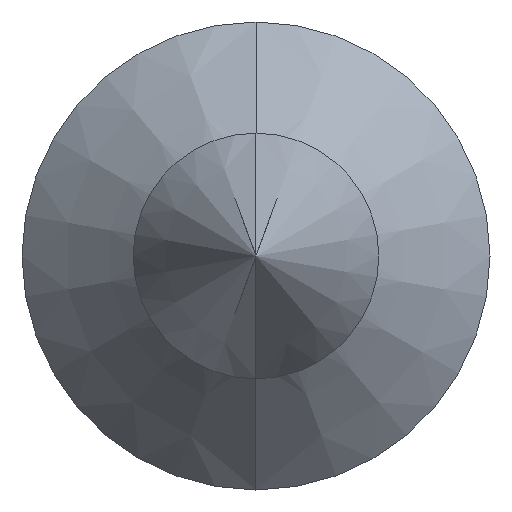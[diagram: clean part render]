
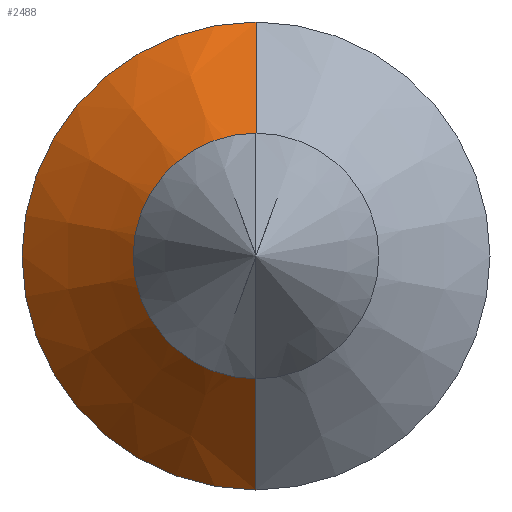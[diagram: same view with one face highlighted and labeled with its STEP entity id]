
A CAD part, left-side view. The second image highlights one B-rep face of the part: STEP entity #2488.
In plain terms, the highlighted conical face has half-angle 45 degrees and reference radius 2 mm.
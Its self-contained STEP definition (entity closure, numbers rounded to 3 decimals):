
#42 = ORIENTED_EDGE ( 'NONE', *, *, #1872, .F. ) ;
#117 = LINE ( 'NONE', #400, #1420 ) ;
#169 = ORIENTED_EDGE ( 'NONE', *, *, #2521, .T. ) ;
#285 = CONICAL_SURFACE ( 'NONE', #3105, 2., 0.785 ) ;
#400 = CARTESIAN_POINT ( 'NONE',  ( 0.966, 0., -2. ) ) ;
#474 = CARTESIAN_POINT ( 'NONE',  ( 0.966, 0., 0. ) ) ;
#490 = CARTESIAN_POINT ( 'NONE',  ( -0.134, 0., 0. ) ) ;
#540 = EDGE_CURVE ( 'NONE', #1320, #2739, #684, .T. ) ;
#608 = AXIS2_PLACEMENT_3D ( 'NONE', #490, #668, #2561 ) ;
#668 = DIRECTION ( 'NONE',  ( -1., 0., 0. ) ) ;
#684 = LINE ( 'NONE', #2570, #1197 ) ;
#846 = EDGE_LOOP ( 'NONE', ( #1100, #2703, #169, #42 ) ) ;
#1100 = ORIENTED_EDGE ( 'NONE', *, *, #1690, .F. ) ;
#1117 = VERTEX_POINT ( 'NONE', #1748 ) ;
#1197 = VECTOR ( 'NONE', #2098, 1000. ) ;
#1206 = DIRECTION ( 'NONE',  ( 1., 0., 0. ) ) ;
#1295 = FACE_OUTER_BOUND ( 'NONE', #846, .T. ) ;
#1320 = VERTEX_POINT ( 'NONE', #1805 ) ;
#1420 = VECTOR ( 'NONE', #2238, 1000. ) ;
#1595 = CIRCLE ( 'NONE', #2864, 2. ) ;
#1690 = EDGE_CURVE ( 'NONE', #1320, #2340, #2958, .T. ) ;
#1748 = CARTESIAN_POINT ( 'NONE',  ( 0.966, 0., -2. ) ) ;
#1802 = CARTESIAN_POINT ( 'NONE',  ( 0.966, 0., 0. ) ) ;
#1805 = CARTESIAN_POINT ( 'NONE',  ( -0.134, 0., 0.9 ) ) ;
#1872 = EDGE_CURVE ( 'NONE', #2340, #1117, #117, .T. ) ;
#1957 = CARTESIAN_POINT ( 'NONE',  ( 0.966, 0., 2. ) ) ;
#2024 = CARTESIAN_POINT ( 'NONE',  ( -0.134, 0., -0.9 ) ) ;
#2098 = DIRECTION ( 'NONE',  ( 0.707, 0., 0.707 ) ) ;
#2238 = DIRECTION ( 'NONE',  ( 0.707, 0., -0.707 ) ) ;
#2303 = DIRECTION ( 'NONE',  ( 0., 0., -1. ) ) ;
#2340 = VERTEX_POINT ( 'NONE', #2024 ) ;
#2488 = ADVANCED_FACE ( 'NONE', ( #1295 ), #285, .T. ) ;
#2521 = EDGE_CURVE ( 'NONE', #2739, #1117, #1595, .T. ) ;
#2561 = DIRECTION ( 'NONE',  ( 0., 0., 1. ) ) ;
#2570 = CARTESIAN_POINT ( 'NONE',  ( 0.966, 0., 2. ) ) ;
#2703 = ORIENTED_EDGE ( 'NONE', *, *, #540, .T. ) ;
#2739 = VERTEX_POINT ( 'NONE', #1957 ) ;
#2864 = AXIS2_PLACEMENT_3D ( 'NONE', #1802, #3081, #3336 ) ;
#2958 = CIRCLE ( 'NONE', #608, 0.9 ) ;
#3081 = DIRECTION ( 'NONE',  ( -1., 0., 0. ) ) ;
#3105 = AXIS2_PLACEMENT_3D ( 'NONE', #474, #1206, #2303 ) ;
#3336 = DIRECTION ( 'NONE',  ( 0., 0., 1. ) ) ;
